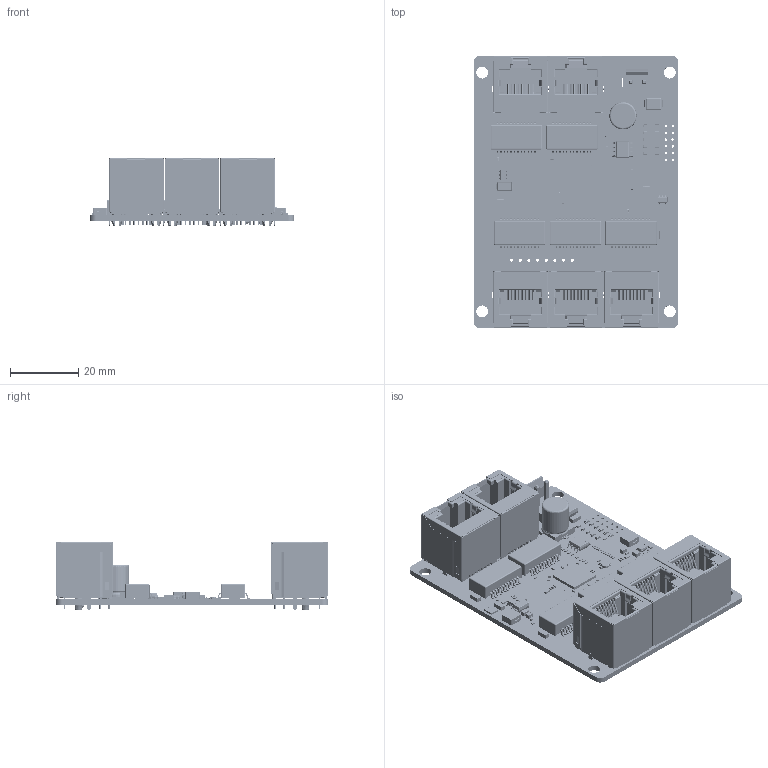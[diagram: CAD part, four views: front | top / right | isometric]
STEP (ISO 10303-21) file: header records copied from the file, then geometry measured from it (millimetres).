
FILE_DESCRIPTION(('Designed by EasyEDA Pro'),'2;1');
FILE_NAME('Open CASCADE Shape Model','2025-07-03T22:17:53',('Author'),( 'Open CASCADE'),'Open CASCADE STEP processor 7.8','Open CASCADE 7.8' ,'Unknown');
FILE_SCHEMA(('AUTOMOTIVE_DESIGN { 1 0 10303 214 1 1 1 1 }'));
Length unit declared in the file: millimetre
Products named in the file (50): EasyEDA PCB Model~pzVP; Board~pzVP; TopCopper~pzVP; BottomCopper~pzVP; TopFpcStiffener~pzVP; BottomFpcStiffener~pzVP; C32~1206~C1206_L3.2-W1.6-H1.3~pzVP; 1206~C1206_L3.2-W1.6-H1.3~pzVP; C29~0805-1907~C0805_L2.0-W1.3-H1.3~pzVP; 0805-1907~C0805_L2.0-W1.3-H1.3~pzVP; C10~C0402_LY~C0402~pzVP; C0402_LY~C0402~pzVP; R1~R0402_LY~R0402_L1.0-W0.5-H0.4~pzVP; R0402_LY~R0402_L1.0-W0.5-H0.4~pzVP; R11~R0603_LY~R0603_L1.6-W0.8-H0.5~pzVP; R0603_LY~R0603_L1.6-W0.8-H0.5~pzVP; R24~1210~R1210_L3.2-W2.6-H0.6~pzVP; 1210~R1210_L3.2-W2.6-H0.6~pzVP; T1~RJ45_LED_LS_HHH~RJ45; RJ45_LED_LS_HHH~RJ45; C17~C0603~C0603~pzVP; C0603~C0603~pzVP; D19~SMB-PN-210107~SMB_L4.6-W3.5-LS5.3-BI~pzVP; SMB-PN-210107~SMB_L4.6-W3.5-LS5.3-BI~pzVP; D21~SMA-S-2204~SMA_L4.3-W2.6-LS5.0-FD~pzVP; SMA-S-2204~SMA_L4.3-W2.6-LS5.0-FD~pzVP; JP~J2-3.96MM~CONN-TH_2P-P3.96_C9900035759~pzVP; J2-3.96MM~CONN-TH_2P-P3.96_C9900035759~pzVP; L1~L0502~IND-SMD_L4.2-W4.4-H2.0~pzVP; L0502~IND-SMD_L4.2-W4.4-H2.0~pzVP; L~L0502~IND-SMD_L4.2-W4.4-H2.0~pzVP; PL1~LED-A~LED0603-RD_RED~pzVP; LED-A~LED0603-RD_RED~pzVP; U8~SOT-23-6P~SOT-23-6_L2.9-W1.6-P0.95-LS2.8-BL-1~pzVP; SOT-23-6P~SOT-23-6_L2.9-W1.6-P0.95-LS2.8-BL-1~pzVP; Y~Y-3225-210511~CRYSTAL-SMD_4P-L3.2-W2.5-BL~pzVP; Y-3225-210511~CRYSTAL-SMD_4P-L3.2-W2.5-BL~pzVP; C13~E100B-25AA~CAP-SMD_BD8.0-L8.3-W8.3-FD~pzVP; E100B-25AA~CAP-SMD_BD8.0-L8.3-W8.3-FD~pzVP; MA0~NS892407B~SMD-24_L15.1-W7.1-H4.5-P1.00-LS10.0-BL~pzVP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
Assembly tree (131 placements, depth 3):
  EasyEDA PCB Model~pzVP
    Board~pzVP
    TopCopper~pzVP
    BottomCopper~pzVP
    TopFpcStiffener~pzVP
    BottomFpcStiffener~pzVP
    C32~1206~C1206_L3.2-W1.6-H1.3~pzVP  x6
      1206~C1206_L3.2-W1.6-H1.3~pzVP
    C29~0805-1907~C0805_L2.0-W1.3-H1.3~pzVP  x4
      0805-1907~C0805_L2.0-W1.3-H1.3~pzVP
    C10~C0402_LY~C0402~pzVP  x31
      C0402_LY~C0402~pzVP
    R1~R0402_LY~R0402_L1.0-W0.5-H0.4~pzVP  x23
      R0402_LY~R0402_L1.0-W0.5-H0.4~pzVP
    R11~R0603_LY~R0603_L1.6-W0.8-H0.5~pzVP  x5
      R0603_LY~R0603_L1.6-W0.8-H0.5~pzVP
    R24~1210~R1210_L3.2-W2.6-H0.6~pzVP
      1210~R1210_L3.2-W2.6-H0.6~pzVP
    T1~RJ45_LED_LS_HHH~RJ45  x5
      RJ45_LED_LS_HHH~RJ45
      RJ45_LED_LS_HHH~RJ45
      RJ45_LED_LS_HHH~RJ45
    C17~C0603~C0603~pzVP
      C0603~C0603~pzVP
    D19~SMB-PN-210107~SMB_L4.6-W3.5-LS5.3-BI~pzVP
      SMB-PN-210107~SMB_L4.6-W3.5-LS5.3-BI~pzVP
    D21~SMA-S-2204~SMA_L4.3-W2.6-LS5.0-FD~pzVP
      SMA-S-2204~SMA_L4.3-W2.6-LS5.0-FD~pzVP
    JP~J2-3.96MM~CONN-TH_2P-P3.96_C9900035759~pzVP
      J2-3.96MM~CONN-TH_2P-P3.96_C9900035759~pzVP
    L1~L0502~IND-SMD_L4.2-W4.4-H2.0~pzVP
      L0502~IND-SMD_L4.2-W4.4-H2.0~pzVP
    L~L0502~IND-SMD_L4.2-W4.4-H2.0~pzVP
      L0502~IND-SMD_L4.2-W4.4-H2.0~pzVP
    PL1~LED-A~LED0603-RD_RED~pzVP  x11
      LED-A~LED0603-RD_RED~pzVP
    U8~SOT-23-6P~SOT-23-6_L2.9-W1.6-P0.95-LS2.8-BL-1~pzVP
      SOT-23-6P~SOT-23-6_L2.9-W1.6-P0.95-LS2.8-BL-1~pzVP
    Y~Y-3225-210511~CRYSTAL-SMD_4P-L3.2-W2.5-BL~pzVP
      Y-3225-210511~CRYSTAL-SMD_4P-L3.2-W2.5-BL~pzVP
    C13~E100B-25AA~CAP-SMD_BD8.0-L8.3-W8.3-FD~pzVP
      E100B-25AA~CAP-SMD_BD8.0-L8.3-W8.3-FD~pzVP
    MA0~NS892407B~SMD-24_L15.1-W7.1-H4.5-P1.00-LS10.0-BL~pzVP  x5
      NS892407B~SMD-24_L15.1-W7.1-H4.5-P1.00-LS10.0-BL~pzVP
    U1~QFN76~QFN-76_L9.0-W9.0-P0.40-TL-EP6.4~pzVP
      QFN76~QFN-76_L9.0-W9.0-P0.40-TL-EP6.4~pzVP
    U2~STI3408~SOT-23-5_L2.9-W1.6-H1.1-LS2.8-P0.95~pzVP
      STI3408~SOT-23-5_L2.9-W1.6-H1.1-LS2.8-P0.95~pzVP
    U4~SOP8-201809~SOIC-8_L4.9-W3.9-H1.7-LS6.0-P1.27~pzVP
      SOP8-201809~SOIC-8_L4.9-W3.9-H1.7-LS6.0-P1.27~pzVP
Bounding box: 59.97 x 79.97 x 19.9 mm (x, y, z)
Volume: 22814.1 mm3; surface area: 48505.5 mm2
Topology: 410 solids, 410 shells, 39069 faces, 105753 edges, 69424 vertices
Faces by surface type: plane 23241, bspline 10341, cylinder 4538, sphere 507, torus 386, cone 56
Entity records: 376212 total; most frequent: CARTESIAN_POINT 95411, ORIENTED_EDGE 47858, DIRECTION 35785, EDGE_CURVE 23929, LINE 16393, VECTOR 16393, VERTEX_POINT 15672, AXIS2_PLACEMENT_3D 9696
